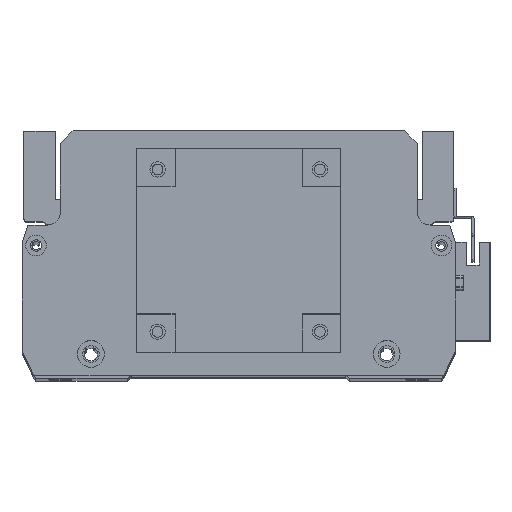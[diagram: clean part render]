
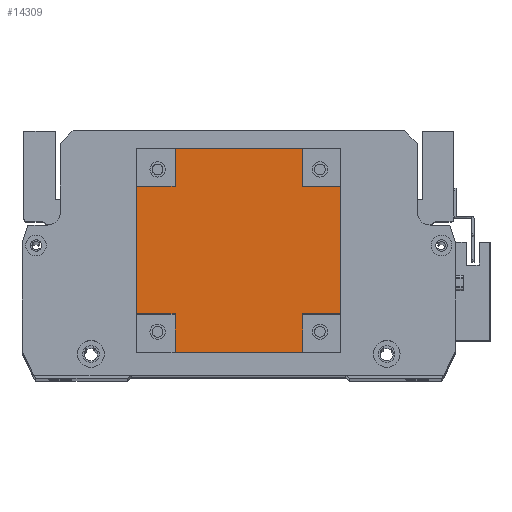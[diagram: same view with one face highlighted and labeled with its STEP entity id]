
A CAD part, top view. The second image highlights one B-rep face of the part: STEP entity #14309.
In plain terms, the highlighted planar face has unit normal (0, 0, 1).
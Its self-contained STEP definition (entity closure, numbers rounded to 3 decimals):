
#591 = VECTOR ( 'NONE', #10745, 1000. ) ;
#665 = CARTESIAN_POINT ( 'NONE',  ( 65., 80., 101.5 ) ) ;
#1178 = ORIENTED_EDGE ( 'NONE', *, *, #15285, .T. ) ;
#1898 = DIRECTION ( 'NONE',  ( -1., 0., 0. ) ) ;
#2042 = VERTEX_POINT ( 'NONE', #15666 ) ;
#2146 = LINE ( 'NONE', #19255, #22273 ) ;
#2179 = VERTEX_POINT ( 'NONE', #6437 ) ;
#3456 = VERTEX_POINT ( 'NONE', #12505 ) ;
#4271 = DIRECTION ( 'NONE',  ( 0., -1., 0. ) ) ;
#4639 = CARTESIAN_POINT ( 'NONE',  ( 0., 80., 101.5 ) ) ;
#4726 = VECTOR ( 'NONE', #5199, 1000. ) ;
#5199 = DIRECTION ( 'NONE',  ( 0., -1., 0. ) ) ;
#5423 = ORIENTED_EDGE ( 'NONE', *, *, #16403, .F. ) ;
#5720 = ORIENTED_EDGE ( 'NONE', *, *, #14940, .T. ) ;
#5768 = CARTESIAN_POINT ( 'NONE',  ( 80., 0., 101.5 ) ) ;
#6094 = CARTESIAN_POINT ( 'NONE',  ( 0., 65., 101.5 ) ) ;
#6194 = VECTOR ( 'NONE', #1898, 1000. ) ;
#6345 = CARTESIAN_POINT ( 'NONE',  ( 65., 80., 101.5 ) ) ;
#6437 = CARTESIAN_POINT ( 'NONE',  ( 15., 65., 101.5 ) ) ;
#7414 = VERTEX_POINT ( 'NONE', #665 ) ;
#7783 = DIRECTION ( 'NONE',  ( 0., 1., 0. ) ) ;
#8084 = CARTESIAN_POINT ( 'NONE',  ( 65., 65., 101.5 ) ) ;
#8207 = VERTEX_POINT ( 'NONE', #15241 ) ;
#8399 = VECTOR ( 'NONE', #20410, 1000. ) ;
#8978 = VERTEX_POINT ( 'NONE', #21468 ) ;
#9027 = VECTOR ( 'NONE', #7783, 1000. ) ;
#9129 = CARTESIAN_POINT ( 'NONE',  ( 0., 65., 101.5 ) ) ;
#9444 = CARTESIAN_POINT ( 'NONE',  ( 15., 0., 101.5 ) ) ;
#9592 = ORIENTED_EDGE ( 'NONE', *, *, #15925, .F. ) ;
#9862 = EDGE_LOOP ( 'NONE', ( #11178, #9592, #14210, #5720, #21222, #14358, #1178, #21254, #10190, #14219, #19926, #5423 ) ) ;
#9944 = LINE ( 'NONE', #11014, #4726 ) ;
#10190 = ORIENTED_EDGE ( 'NONE', *, *, #16249, .F. ) ;
#10300 = VERTEX_POINT ( 'NONE', #25049 ) ;
#10637 = DIRECTION ( 'NONE',  ( -1., 0., 0. ) ) ;
#10745 = DIRECTION ( 'NONE',  ( 1., 0., 0. ) ) ;
#11014 = CARTESIAN_POINT ( 'NONE',  ( 0., 0., 101.5 ) ) ;
#11051 = DIRECTION ( 'NONE',  ( 1., 0., 0. ) ) ;
#11178 = ORIENTED_EDGE ( 'NONE', *, *, #15806, .T. ) ;
#12286 = VECTOR ( 'NONE', #4271, 1000. ) ;
#12505 = CARTESIAN_POINT ( 'NONE',  ( 65., 15., 101.5 ) ) ;
#13572 = VERTEX_POINT ( 'NONE', #21496 ) ;
#13657 = CARTESIAN_POINT ( 'NONE',  ( 80., 15., 101.5 ) ) ;
#14162 = CARTESIAN_POINT ( 'NONE',  ( 65., 65., 101.5 ) ) ;
#14210 = ORIENTED_EDGE ( 'NONE', *, *, #16035, .F. ) ;
#14219 = ORIENTED_EDGE ( 'NONE', *, *, #15542, .T. ) ;
#14309 = ADVANCED_FACE ( 'NONE', ( #24496 ), #20251, .F. ) ;
#14358 = ORIENTED_EDGE ( 'NONE', *, *, #16178, .F. ) ;
#14940 = EDGE_CURVE ( 'NONE', #16940, #2042, #9944, .T. ) ;
#15075 = LINE ( 'NONE', #24731, #24694 ) ;
#15241 = CARTESIAN_POINT ( 'NONE',  ( 15., 80., 101.5 ) ) ;
#15285 = EDGE_CURVE ( 'NONE', #13572, #17573, #22023, .T. ) ;
#15542 = EDGE_CURVE ( 'NONE', #22891, #8978, #19301, .T. ) ;
#15666 = CARTESIAN_POINT ( 'NONE',  ( 0., 15., 101.5 ) ) ;
#15806 = EDGE_CURVE ( 'NONE', #7414, #8207, #21683, .T. ) ;
#15925 = EDGE_CURVE ( 'NONE', #2179, #8207, #23799, .T. ) ;
#16035 = EDGE_CURVE ( 'NONE', #16940, #2179, #21977, .T. ) ;
#16076 = CARTESIAN_POINT ( 'NONE',  ( 65., 0., 101.5 ) ) ;
#16104 = EDGE_CURVE ( 'NONE', #10300, #2042, #15075, .T. ) ;
#16178 = EDGE_CURVE ( 'NONE', #13572, #10300, #24097, .T. ) ;
#16219 = EDGE_CURVE ( 'NONE', #3456, #17573, #2146, .T. ) ;
#16249 = EDGE_CURVE ( 'NONE', #22891, #3456, #21037, .T. ) ;
#16322 = EDGE_CURVE ( 'NONE', #17583, #8978, #19851, .T. ) ;
#16403 = EDGE_CURVE ( 'NONE', #7414, #17583, #22573, .T. ) ;
#16620 = VECTOR ( 'NONE', #18278, 1000. ) ;
#16647 = CARTESIAN_POINT ( 'NONE',  ( 0., 0., 101.5 ) ) ;
#16916 = VECTOR ( 'NONE', #11051, 1000. ) ;
#16940 = VERTEX_POINT ( 'NONE', #6094 ) ;
#17288 = DIRECTION ( 'NONE',  ( 0., 1., 0. ) ) ;
#17573 = VERTEX_POINT ( 'NONE', #16076 ) ;
#17583 = VERTEX_POINT ( 'NONE', #14162 ) ;
#18278 = DIRECTION ( 'NONE',  ( -1., 0., 0. ) ) ;
#18363 = VECTOR ( 'NONE', #17288, 1000. ) ;
#18515 = CARTESIAN_POINT ( 'NONE',  ( 15., 80., 101.5 ) ) ;
#19255 = CARTESIAN_POINT ( 'NONE',  ( 65., 0., 101.5 ) ) ;
#19256 = VECTOR ( 'NONE', #23545, 1000. ) ;
#19301 = LINE ( 'NONE', #5768, #9027 ) ;
#19851 = LINE ( 'NONE', #8084, #19256 ) ;
#19926 = ORIENTED_EDGE ( 'NONE', *, *, #16322, .F. ) ;
#20251 = PLANE ( 'NONE',  #23419 ) ;
#20410 = DIRECTION ( 'NONE',  ( 0., 1., 0. ) ) ;
#21037 = LINE ( 'NONE', #13657, #6194 ) ;
#21222 = ORIENTED_EDGE ( 'NONE', *, *, #16104, .F. ) ;
#21254 = ORIENTED_EDGE ( 'NONE', *, *, #16219, .F. ) ;
#21468 = CARTESIAN_POINT ( 'NONE',  ( 80., 65., 101.5 ) ) ;
#21496 = CARTESIAN_POINT ( 'NONE',  ( 15., 0., 101.5 ) ) ;
#21683 = LINE ( 'NONE', #4639, #16620 ) ;
#21977 = LINE ( 'NONE', #9129, #16916 ) ;
#22023 = LINE ( 'NONE', #16647, #591 ) ;
#22208 = DIRECTION ( 'NONE',  ( 0., 0., -1. ) ) ;
#22273 = VECTOR ( 'NONE', #23133, 1000. ) ;
#22573 = LINE ( 'NONE', #6345, #12286 ) ;
#22816 = DIRECTION ( 'NONE',  ( -1., 0., 0. ) ) ;
#22891 = VERTEX_POINT ( 'NONE', #24353 ) ;
#23133 = DIRECTION ( 'NONE',  ( 0., -1., 0. ) ) ;
#23419 = AXIS2_PLACEMENT_3D ( 'NONE', #23989, #22208, #10637 ) ;
#23545 = DIRECTION ( 'NONE',  ( 1., 0., 0. ) ) ;
#23799 = LINE ( 'NONE', #18515, #8399 ) ;
#23989 = CARTESIAN_POINT ( 'NONE',  ( 0., 0., 101.5 ) ) ;
#24097 = LINE ( 'NONE', #9444, #18363 ) ;
#24353 = CARTESIAN_POINT ( 'NONE',  ( 80., 15., 101.5 ) ) ;
#24496 = FACE_OUTER_BOUND ( 'NONE', #9862, .T. ) ;
#24694 = VECTOR ( 'NONE', #22816, 1000. ) ;
#24731 = CARTESIAN_POINT ( 'NONE',  ( 0., 15., 101.5 ) ) ;
#25049 = CARTESIAN_POINT ( 'NONE',  ( 15., 15., 101.5 ) ) ;
